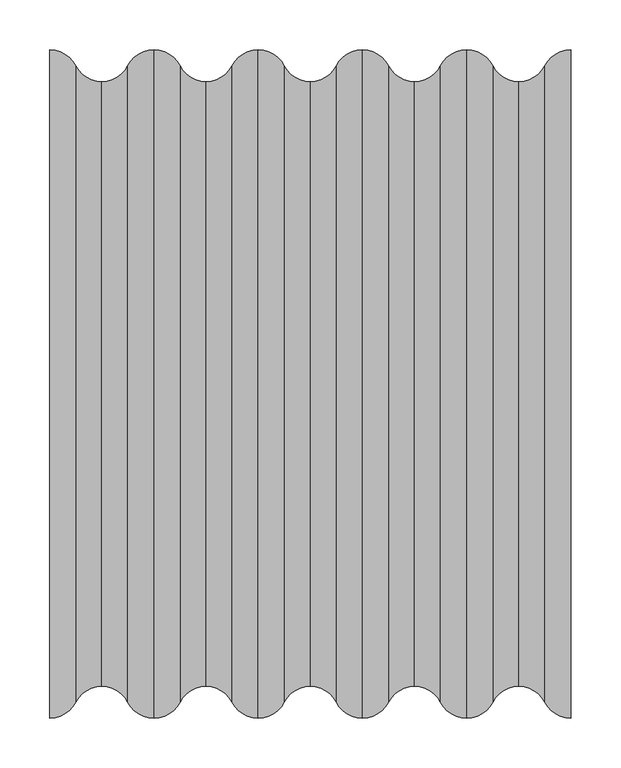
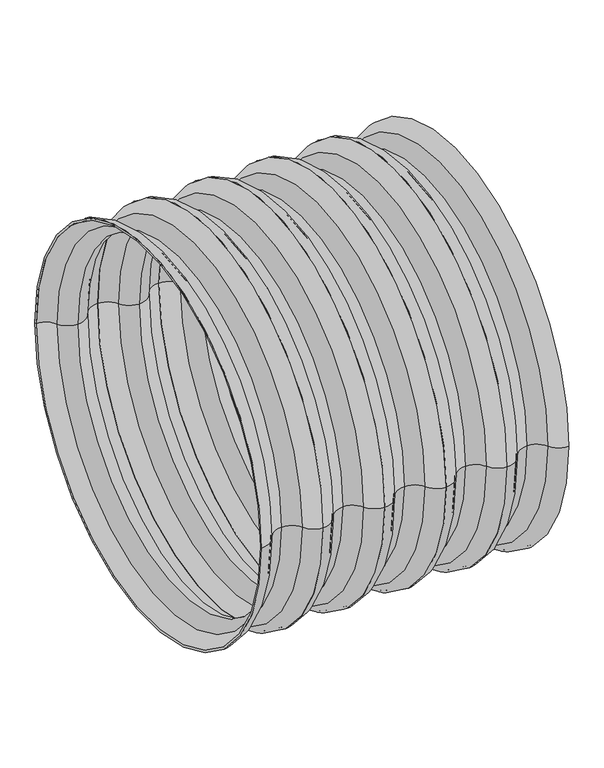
"""IFC4 building model written with IfcOpenShell, lengths in millimetres: pipe fitting geometry, Z_PIF_UN_Q-Bic_Plus_Shaft_Pipe_Wavin_(nested) : PP, RAL8012, ø600mm."""

from ifc_helpers import new_model, si_unit, point, frame, origin, place, context, project, spatial, circle_curve, ellipse_curve, trimmed, source, transform, mapped, element, save
from ifc_brep_helpers import plane_surface, revolved_surface, advanced_brep


def pipe_fitting_80fb7be2(model_context):
    return source(origin(), model_context, "Body", "AdvancedBrep", [
        advanced_brep(
        [(945.0, -336.4, 0.0), (945.0, 336.4, 0.0), (971.25, 320.3, 0.0), (971.25, -320.3, 0.0), (945.0, -332.7, 0.0), (945.0, 332.7, 0.0), (971.25, -316.6, 0.0), (971.25, 316.6, 0.0), (997.5, -300.5, 0.0), (997.5, 300.5, 0.0), (1023.75, -316.6, 0.0), (1023.75, 316.6, 0.0), (1050.0, -332.7, 0.0), (1050.0, 332.7, 0.0), (1050.0, -336.4, 0.0), (1050.0, 336.4, 0.0), (1023.75, -320.3, 0.0), (1023.75, 320.3, 0.0), (997.5, -304.2, 0.0), (997.5, 304.2, 0.0)],
        [
            (0, 1, circle_curve(frame((945.0, 0.0, 0.0), z_axis=(1.0, 0.0, 0.0), x_axis=(0.0, 1.0, 0.0)), 336.4)),
            (1, 2, circle_curve(frame((945.0, 306.9505435, 0.0), z_axis=(0.0, 0.0, -1.0), x_axis=(1.0, 0.0, 0.0)), 29.4494565)),
            (2, 3, circle_curve(frame((971.25, 0.0, 0.0), z_axis=(-1.0, 0.0, 0.0), x_axis=(0.0, 1.0, 0.0)), 320.3)),
            (3, 0, circle_curve(frame((945.0, -306.9505435, 0.0), z_axis=(0.0, 0.0, -1.0), x_axis=(1.0, 0.0, 0.0)), 29.4494565)),
            (1, 0, circle_curve(frame((945.0, 0.0, 0.0), z_axis=(1.0, 0.0, 0.0), x_axis=(0.0, 1.0, 0.0)), 336.4)),
            (3, 2, circle_curve(frame((971.25, 0.0, 0.0), z_axis=(-1.0, 0.0, 0.0), x_axis=(0.0, 1.0, 0.0)), 320.3)),
            (4, 5, circle_curve(frame((945.0, 0.0, 0.0), z_axis=(1.0, 0.0, 0.0), x_axis=(0.0, 1.0, 0.0)), 332.7)),
            (5, 1),
            (0, 4),
            (5, 4, circle_curve(frame((945.0, 0.0, 0.0), z_axis=(1.0, 0.0, 0.0), x_axis=(0.0, 1.0, 0.0)), 332.7)),
            (6, 7, circle_curve(frame((971.25, 0.0, 0.0), z_axis=(1.0, 0.0, 0.0), x_axis=(0.0, 1.0, 0.0)), 316.6)),
            (7, 5, circle_curve(frame((945.0, 303.2505435, 0.0), z_axis=(0.0, 0.0, 1.0), x_axis=(1.0, 0.0, 0.0)), 29.4494565)),
            (4, 6, circle_curve(frame((945.0, -303.2505435, 0.0), z_axis=(0.0, 0.0, 1.0), x_axis=(1.0, 0.0, 0.0)), 29.4494565)),
            (7, 6, circle_curve(frame((971.25, 0.0, 0.0), z_axis=(1.0, 0.0, 0.0), x_axis=(0.0, 1.0, 0.0)), 316.6)),
            (8, 9, circle_curve(frame((997.5, 0.0, 0.0), z_axis=(1.0, 0.0, 0.0), x_axis=(0.0, 1.0, 0.0)), 300.5)),
            (9, 7, circle_curve(frame((997.5, 329.9494565, 0.0), z_axis=(0.0, 0.0, -1.0), x_axis=(1.0, 0.0, 0.0)), 29.4494565)),
            (6, 8, circle_curve(frame((997.5, -329.9494565, 0.0), z_axis=(0.0, 0.0, -1.0), x_axis=(1.0, 0.0, 0.0)), 29.4494565)),
            (9, 8, circle_curve(frame((997.5, 0.0, 0.0), z_axis=(1.0, 0.0, 0.0), x_axis=(0.0, 1.0, 0.0)), 300.5)),
            (10, 11, circle_curve(frame((1023.75, 0.0, 0.0), z_axis=(1.0, 0.0, 0.0), x_axis=(0.0, 1.0, 0.0)), 316.6)),
            (11, 9, circle_curve(frame((997.5, 329.9494565, 0.0), z_axis=(0.0, 0.0, -1.0), x_axis=(1.0, 0.0, 0.0)), 29.4494565)),
            (8, 10, circle_curve(frame((997.5, -329.9494565, 0.0), z_axis=(0.0, 0.0, -1.0), x_axis=(1.0, 0.0, 0.0)), 29.4494565)),
            (11, 10, circle_curve(frame((1023.75, 0.0, 0.0), z_axis=(1.0, 0.0, 0.0), x_axis=(0.0, 1.0, 0.0)), 316.6)),
            (12, 13, circle_curve(frame((1050.0, 0.0, 0.0), z_axis=(1.0, 0.0, 0.0), x_axis=(0.0, 1.0, 0.0)), 332.7)),
            (13, 11, circle_curve(frame((1050.0, 303.2505435, 0.0), z_axis=(0.0, 0.0, 1.0), x_axis=(1.0, 0.0, 0.0)), 29.4494565)),
            (10, 12, circle_curve(frame((1050.0, -303.2505435, 0.0), z_axis=(0.0, 0.0, 1.0), x_axis=(1.0, 0.0, 0.0)), 29.4494565)),
            (13, 12, circle_curve(frame((1050.0, 0.0, 0.0), z_axis=(1.0, 0.0, 0.0), x_axis=(0.0, 1.0, 0.0)), 332.7)),
            (14, 15, circle_curve(frame((1050.0, 0.0, 0.0), z_axis=(1.0, 0.0, 0.0), x_axis=(0.0, 1.0, 0.0)), 336.4)),
            (15, 13),
            (12, 14),
            (15, 14, circle_curve(frame((1050.0, 0.0, 0.0), z_axis=(1.0, 0.0, 0.0), x_axis=(0.0, 1.0, 0.0)), 336.4)),
            (16, 17, circle_curve(frame((1023.75, 0.0, 0.0), z_axis=(1.0, 0.0, 0.0), x_axis=(0.0, 1.0, 0.0)), 320.3)),
            (17, 15, circle_curve(frame((1050.0, 306.9505435, 0.0), z_axis=(0.0, 0.0, -1.0), x_axis=(1.0, 0.0, 0.0)), 29.4494565)),
            (14, 16, circle_curve(frame((1050.0, -306.9505435, 0.0), z_axis=(0.0, 0.0, -1.0), x_axis=(1.0, 0.0, 0.0)), 29.4494565)),
            (17, 16, circle_curve(frame((1023.75, 0.0, 0.0), z_axis=(1.0, 0.0, 0.0), x_axis=(0.0, 1.0, 0.0)), 320.3)),
            (18, 19, circle_curve(frame((997.5, 0.0, 0.0), z_axis=(1.0, 0.0, 0.0), x_axis=(0.0, 1.0, 0.0)), 304.2)),
            (19, 17, circle_curve(frame((997.5, 333.6494565, 0.0), z_axis=(0.0, 0.0, 1.0), x_axis=(1.0, 0.0, 0.0)), 29.4494565)),
            (16, 18, circle_curve(frame((997.5, -333.6494565, 0.0), z_axis=(0.0, 0.0, 1.0), x_axis=(1.0, 0.0, 0.0)), 29.4494565)),
            (19, 18, circle_curve(frame((997.5, 0.0, 0.0), z_axis=(1.0, 0.0, 0.0), x_axis=(0.0, 1.0, 0.0)), 304.2)),
            (2, 19, circle_curve(frame((997.5, 333.6494565, 0.0), z_axis=(0.0, 0.0, 1.0), x_axis=(1.0, 0.0, 0.0)), 29.4494565)),
            (18, 3, circle_curve(frame((997.5, -333.6494565, 0.0), z_axis=(0.0, 0.0, 1.0), x_axis=(1.0, 0.0, 0.0)), 29.4494565)),
        ],
        [
            revolved_surface(trimmed(ellipse_curve(frame((945.0, 306.9505435, 0.0), z_axis=(0.0, 0.0, 1.0), x_axis=(1.0, 0.0, 0.0)), 29.4494565, 29.4494565), [point((971.25, 320.3, 0.0))], [point((945.0, 336.4, 0.0))], True, "CARTESIAN"), (895.0, 0.0, 0.0), (-1.0, 0.0, 0.0)),
            plane_surface(frame((945.0, 0.0, 0.0), z_axis=(-1.0, 0.0, 0.0), x_axis=(0.0, 1.0, 0.0))),
            revolved_surface(trimmed(ellipse_curve(frame((945.0, 303.2505435, 0.0), z_axis=(0.0, 0.0, -1.0), x_axis=(1.0, 0.0, 0.0)), 29.4494565, 29.4494565), [point((945.0, 332.7, 0.0))], [point((971.25, 316.6, 0.0))], True, "CARTESIAN"), (895.0, 0.0, 0.0), (-1.0, 0.0, 0.0)),
            revolved_surface(trimmed(ellipse_curve(frame((997.5, 329.9494565, 0.0), z_axis=(0.0, 0.0, 1.0), x_axis=(1.0, 0.0, 0.0)), 29.4494565, 29.4494565), [point((971.25, 316.6, 0.0))], [point((997.5, 300.5, 0.0))], True, "CARTESIAN"), (895.0, 0.0, 0.0), (-1.0, 0.0, 0.0)),
            revolved_surface(trimmed(ellipse_curve(frame((997.5, 329.9494565, 0.0), z_axis=(0.0, 0.0, 1.0), x_axis=(1.0, 0.0, 0.0)), 29.4494565, 29.4494565), [point((997.5, 300.5, 0.0))], [point((1023.75, 316.6, 0.0))], True, "CARTESIAN"), (895.0, 0.0, 0.0), (-1.0, 0.0, 0.0)),
            revolved_surface(trimmed(ellipse_curve(frame((1050.0, 303.2505435, 0.0), z_axis=(0.0, 0.0, -1.0), x_axis=(1.0, 0.0, 0.0)), 29.4494565, 29.4494565), [point((1023.75, 316.6, 0.0))], [point((1050.0, 332.7, 0.0))], True, "CARTESIAN"), (895.0, 0.0, 0.0), (-1.0, 0.0, 0.0)),
            plane_surface(frame((1050.0, 0.0, 0.0), z_axis=(1.0, 0.0, 0.0), x_axis=(0.0, 1.0, 0.0))),
            revolved_surface(trimmed(ellipse_curve(frame((1050.0, 306.9505435, 0.0), z_axis=(0.0, 0.0, 1.0), x_axis=(1.0, 0.0, 0.0)), 29.4494565, 29.4494565), [point((1050.0, 336.4, 0.0))], [point((1023.75, 320.3, 0.0))], True, "CARTESIAN"), (895.0, 0.0, 0.0), (-1.0, 0.0, 0.0)),
            revolved_surface(trimmed(ellipse_curve(frame((997.5, 333.6494565, 0.0), z_axis=(0.0, 0.0, -1.0), x_axis=(1.0, 0.0, 0.0)), 29.4494565, 29.4494565), [point((1023.75, 320.3, 0.0))], [point((997.5, 304.2, 0.0))], True, "CARTESIAN"), (895.0, 0.0, 0.0), (-1.0, 0.0, 0.0)),
            revolved_surface(trimmed(ellipse_curve(frame((997.5, 333.6494565, 0.0), z_axis=(0.0, 0.0, -1.0), x_axis=(1.0, 0.0, 0.0)), 29.4494565, 29.4494565), [point((997.5, 304.2, 0.0))], [point((971.25, 320.3, 0.0))], True, "CARTESIAN"), (895.0, 0.0, 0.0), (-1.0, 0.0, 0.0)),
        ],
        [
            (0, [[1, 2, 3, 4]]),
            (0, [[5, -4, 6, -2]]),
            (1, [[7, 8, -1, 9]]),
            (1, [[10, -9, -5, -8]]),
            (2, [[11, 12, -7, 13]]),
            (2, [[14, -13, -10, -12]]),
            (3, [[15, 16, -11, 17]]),
            (3, [[18, -17, -14, -16]]),
            (4, [[19, 20, -15, 21]]),
            (4, [[22, -21, -18, -20]]),
            (5, [[23, 24, -19, 25]]),
            (5, [[26, -25, -22, -24]]),
            (6, [[27, 28, -23, 29]]),
            (6, [[30, -29, -26, -28]]),
            (7, [[31, 32, -27, 33]]),
            (7, [[34, -33, -30, -32]]),
            (8, [[35, 36, -31, 37]]),
            (8, [[38, -37, -34, -36]]),
            (9, [[-3, 39, -35, 40]]),
            (9, [[-6, -40, -38, -39]]),
        ],
    ),
        advanced_brep(
        [(840.0, -336.4, 0.0), (840.0, 336.4, 0.0), (866.25, 320.3, 0.0), (866.25, -320.3, 0.0), (840.0, -332.7, 0.0), (840.0, 332.7, 0.0), (866.25, -316.6, 0.0), (866.25, 316.6, 0.0), (892.5, -300.5, 0.0), (892.5, 300.5, 0.0), (918.75, -316.6, 0.0), (918.75, 316.6, 0.0), (945.0, -332.7, 0.0), (945.0, 332.7, 0.0), (945.0, -336.4, 0.0), (945.0, 336.4, 0.0), (918.75, -320.3, 0.0), (918.75, 320.3, 0.0), (892.5, -304.2, 0.0), (892.5, 304.2, 0.0)],
        [
            (0, 1, circle_curve(frame((840.0, 0.0, 0.0), z_axis=(1.0, 0.0, 0.0), x_axis=(0.0, 1.0, 0.0)), 336.4)),
            (1, 2, circle_curve(frame((840.0, 306.9505435, 0.0), z_axis=(0.0, 0.0, -1.0), x_axis=(1.0, 0.0, 0.0)), 29.4494565)),
            (2, 3, circle_curve(frame((866.25, 0.0, 0.0), z_axis=(-1.0, 0.0, 0.0), x_axis=(0.0, 1.0, 0.0)), 320.3)),
            (3, 0, circle_curve(frame((840.0, -306.9505435, 0.0), z_axis=(0.0, 0.0, -1.0), x_axis=(1.0, 0.0, 0.0)), 29.4494565)),
            (1, 0, circle_curve(frame((840.0, 0.0, 0.0), z_axis=(1.0, 0.0, 0.0), x_axis=(0.0, 1.0, 0.0)), 336.4)),
            (3, 2, circle_curve(frame((866.25, 0.0, 0.0), z_axis=(-1.0, 0.0, 0.0), x_axis=(0.0, 1.0, 0.0)), 320.3)),
            (4, 5, circle_curve(frame((840.0, 0.0, 0.0), z_axis=(1.0, 0.0, 0.0), x_axis=(0.0, 1.0, 0.0)), 332.7)),
            (5, 1),
            (0, 4),
            (5, 4, circle_curve(frame((840.0, 0.0, 0.0), z_axis=(1.0, 0.0, 0.0), x_axis=(0.0, 1.0, 0.0)), 332.7)),
            (6, 7, circle_curve(frame((866.25, 0.0, 0.0), z_axis=(1.0, 0.0, 0.0), x_axis=(0.0, 1.0, 0.0)), 316.6)),
            (7, 5, circle_curve(frame((840.0, 303.2505435, 0.0), z_axis=(0.0, 0.0, 1.0), x_axis=(1.0, 0.0, 0.0)), 29.4494565)),
            (4, 6, circle_curve(frame((840.0, -303.2505435, 0.0), z_axis=(0.0, 0.0, 1.0), x_axis=(1.0, 0.0, 0.0)), 29.4494565)),
            (7, 6, circle_curve(frame((866.25, 0.0, 0.0), z_axis=(1.0, 0.0, 0.0), x_axis=(0.0, 1.0, 0.0)), 316.6)),
            (8, 9, circle_curve(frame((892.5, 0.0, 0.0), z_axis=(1.0, 0.0, 0.0), x_axis=(0.0, 1.0, 0.0)), 300.5)),
            (9, 7, circle_curve(frame((892.5, 329.9494565, 0.0), z_axis=(0.0, 0.0, -1.0), x_axis=(1.0, 0.0, 0.0)), 29.4494565)),
            (6, 8, circle_curve(frame((892.5, -329.9494565, 0.0), z_axis=(0.0, 0.0, -1.0), x_axis=(1.0, 0.0, 0.0)), 29.4494565)),
            (9, 8, circle_curve(frame((892.5, 0.0, 0.0), z_axis=(1.0, 0.0, 0.0), x_axis=(0.0, 1.0, 0.0)), 300.5)),
            (10, 11, circle_curve(frame((918.75, 0.0, 0.0), z_axis=(1.0, 0.0, 0.0), x_axis=(0.0, 1.0, 0.0)), 316.6)),
            (11, 9, circle_curve(frame((892.5, 329.9494565, 0.0), z_axis=(0.0, 0.0, -1.0), x_axis=(1.0, 0.0, 0.0)), 29.4494565)),
            (8, 10, circle_curve(frame((892.5, -329.9494565, 0.0), z_axis=(0.0, 0.0, -1.0), x_axis=(1.0, 0.0, 0.0)), 29.4494565)),
            (11, 10, circle_curve(frame((918.75, 0.0, 0.0), z_axis=(1.0, 0.0, 0.0), x_axis=(0.0, 1.0, 0.0)), 316.6)),
            (12, 13, circle_curve(frame((945.0, 0.0, 0.0), z_axis=(1.0, 0.0, 0.0), x_axis=(0.0, 1.0, 0.0)), 332.7)),
            (13, 11, circle_curve(frame((945.0, 303.2505435, 0.0), z_axis=(0.0, 0.0, 1.0), x_axis=(1.0, 0.0, 0.0)), 29.4494565)),
            (10, 12, circle_curve(frame((945.0, -303.2505435, 0.0), z_axis=(0.0, 0.0, 1.0), x_axis=(1.0, 0.0, 0.0)), 29.4494565)),
            (13, 12, circle_curve(frame((945.0, 0.0, 0.0), z_axis=(1.0, 0.0, 0.0), x_axis=(0.0, 1.0, 0.0)), 332.7)),
            (14, 15, circle_curve(frame((945.0, 0.0, 0.0), z_axis=(1.0, 0.0, 0.0), x_axis=(0.0, 1.0, 0.0)), 336.4)),
            (15, 13),
            (12, 14),
            (15, 14, circle_curve(frame((945.0, 0.0, 0.0), z_axis=(1.0, 0.0, 0.0), x_axis=(0.0, 1.0, 0.0)), 336.4)),
            (16, 17, circle_curve(frame((918.75, 0.0, 0.0), z_axis=(1.0, 0.0, 0.0), x_axis=(0.0, 1.0, 0.0)), 320.3)),
            (17, 15, circle_curve(frame((945.0, 306.9505435, 0.0), z_axis=(0.0, 0.0, -1.0), x_axis=(1.0, 0.0, 0.0)), 29.4494565)),
            (14, 16, circle_curve(frame((945.0, -306.9505435, 0.0), z_axis=(0.0, 0.0, -1.0), x_axis=(1.0, 0.0, 0.0)), 29.4494565)),
            (17, 16, circle_curve(frame((918.75, 0.0, 0.0), z_axis=(1.0, 0.0, 0.0), x_axis=(0.0, 1.0, 0.0)), 320.3)),
            (18, 19, circle_curve(frame((892.5, 0.0, 0.0), z_axis=(1.0, 0.0, 0.0), x_axis=(0.0, 1.0, 0.0)), 304.2)),
            (19, 17, circle_curve(frame((892.5, 333.6494565, 0.0), z_axis=(0.0, 0.0, 1.0), x_axis=(1.0, 0.0, 0.0)), 29.4494565)),
            (16, 18, circle_curve(frame((892.5, -333.6494565, 0.0), z_axis=(0.0, 0.0, 1.0), x_axis=(1.0, 0.0, 0.0)), 29.4494565)),
            (19, 18, circle_curve(frame((892.5, 0.0, 0.0), z_axis=(1.0, 0.0, 0.0), x_axis=(0.0, 1.0, 0.0)), 304.2)),
            (2, 19, circle_curve(frame((892.5, 333.6494565, 0.0), z_axis=(0.0, 0.0, 1.0), x_axis=(1.0, 0.0, 0.0)), 29.4494565)),
            (18, 3, circle_curve(frame((892.5, -333.6494565, 0.0), z_axis=(0.0, 0.0, 1.0), x_axis=(1.0, 0.0, 0.0)), 29.4494565)),
        ],
        [
            revolved_surface(trimmed(ellipse_curve(frame((840.0, 306.9505435, 0.0), z_axis=(0.0, 0.0, 1.0), x_axis=(1.0, 0.0, 0.0)), 29.4494565, 29.4494565), [point((866.25, 320.3, 0.0))], [point((840.0, 336.4, 0.0))], True, "CARTESIAN"), (790.0, 0.0, 0.0), (-1.0, 0.0, 0.0)),
            plane_surface(frame((840.0, 0.0, 0.0), z_axis=(-1.0, 0.0, 0.0), x_axis=(0.0, 1.0, 0.0))),
            revolved_surface(trimmed(ellipse_curve(frame((840.0, 303.2505435, 0.0), z_axis=(0.0, 0.0, -1.0), x_axis=(1.0, 0.0, 0.0)), 29.4494565, 29.4494565), [point((840.0, 332.7, 0.0))], [point((866.25, 316.6, 0.0))], True, "CARTESIAN"), (790.0, 0.0, 0.0), (-1.0, 0.0, 0.0)),
            revolved_surface(trimmed(ellipse_curve(frame((892.5, 329.9494565, 0.0), z_axis=(0.0, 0.0, 1.0), x_axis=(1.0, 0.0, 0.0)), 29.4494565, 29.4494565), [point((866.25, 316.6, 0.0))], [point((892.5, 300.5, 0.0))], True, "CARTESIAN"), (790.0, 0.0, 0.0), (-1.0, 0.0, 0.0)),
            revolved_surface(trimmed(ellipse_curve(frame((892.5, 329.9494565, 0.0), z_axis=(0.0, 0.0, 1.0), x_axis=(1.0, 0.0, 0.0)), 29.4494565, 29.4494565), [point((892.5, 300.5, 0.0))], [point((918.75, 316.6, 0.0))], True, "CARTESIAN"), (790.0, 0.0, 0.0), (-1.0, 0.0, 0.0)),
            revolved_surface(trimmed(ellipse_curve(frame((945.0, 303.2505435, 0.0), z_axis=(0.0, 0.0, -1.0), x_axis=(1.0, 0.0, 0.0)), 29.4494565, 29.4494565), [point((918.75, 316.6, 0.0))], [point((945.0, 332.7, 0.0))], True, "CARTESIAN"), (790.0, 0.0, 0.0), (-1.0, 0.0, 0.0)),
            plane_surface(frame((945.0, 0.0, 0.0), z_axis=(1.0, 0.0, 0.0), x_axis=(0.0, 1.0, 0.0))),
            revolved_surface(trimmed(ellipse_curve(frame((945.0, 306.9505435, 0.0), z_axis=(0.0, 0.0, 1.0), x_axis=(1.0, 0.0, 0.0)), 29.4494565, 29.4494565), [point((945.0, 336.4, 0.0))], [point((918.75, 320.3, 0.0))], True, "CARTESIAN"), (790.0, 0.0, 0.0), (-1.0, 0.0, 0.0)),
            revolved_surface(trimmed(ellipse_curve(frame((892.5, 333.6494565, 0.0), z_axis=(0.0, 0.0, -1.0), x_axis=(1.0, 0.0, 0.0)), 29.4494565, 29.4494565), [point((918.75, 320.3, 0.0))], [point((892.5, 304.2, 0.0))], True, "CARTESIAN"), (790.0, 0.0, 0.0), (-1.0, 0.0, 0.0)),
            revolved_surface(trimmed(ellipse_curve(frame((892.5, 333.6494565, 0.0), z_axis=(0.0, 0.0, -1.0), x_axis=(1.0, 0.0, 0.0)), 29.4494565, 29.4494565), [point((892.5, 304.2, 0.0))], [point((866.25, 320.3, 0.0))], True, "CARTESIAN"), (790.0, 0.0, 0.0), (-1.0, 0.0, 0.0)),
        ],
        [
            (0, [[1, 2, 3, 4]]),
            (0, [[5, -4, 6, -2]]),
            (1, [[7, 8, -1, 9]]),
            (1, [[10, -9, -5, -8]]),
            (2, [[11, 12, -7, 13]]),
            (2, [[14, -13, -10, -12]]),
            (3, [[15, 16, -11, 17]]),
            (3, [[18, -17, -14, -16]]),
            (4, [[19, 20, -15, 21]]),
            (4, [[22, -21, -18, -20]]),
            (5, [[23, 24, -19, 25]]),
            (5, [[26, -25, -22, -24]]),
            (6, [[27, 28, -23, 29]]),
            (6, [[30, -29, -26, -28]]),
            (7, [[31, 32, -27, 33]]),
            (7, [[34, -33, -30, -32]]),
            (8, [[35, 36, -31, 37]]),
            (8, [[38, -37, -34, -36]]),
            (9, [[-3, 39, -35, 40]]),
            (9, [[-6, -40, -38, -39]]),
        ],
    ),
        advanced_brep(
        [(735.0, -336.4, 0.0), (735.0, 336.4, 0.0), (761.25, 320.3, 0.0), (761.25, -320.3, 0.0), (735.0, -332.7, 0.0), (735.0, 332.7, 0.0), (761.25, -316.6, 0.0), (761.25, 316.6, 0.0), (787.5, -300.5, 0.0), (787.5, 300.5, 0.0), (813.75, -316.6, 0.0), (813.75, 316.6, 0.0), (840.0, -332.7, 0.0), (840.0, 332.7, 0.0), (840.0, -336.4, 0.0), (840.0, 336.4, 0.0), (813.75, -320.3, 0.0), (813.75, 320.3, 0.0), (787.5, -304.2, 0.0), (787.5, 304.2, 0.0)],
        [
            (0, 1, circle_curve(frame((735.0, 0.0, 0.0), z_axis=(1.0, 0.0, 0.0), x_axis=(0.0, 1.0, 0.0)), 336.4)),
            (1, 2, circle_curve(frame((735.0, 306.9505435, 0.0), z_axis=(0.0, 0.0, -1.0), x_axis=(1.0, 0.0, 0.0)), 29.4494565)),
            (2, 3, circle_curve(frame((761.25, 0.0, 0.0), z_axis=(-1.0, 0.0, 0.0), x_axis=(0.0, 1.0, 0.0)), 320.3)),
            (3, 0, circle_curve(frame((735.0, -306.9505435, 0.0), z_axis=(0.0, 0.0, -1.0), x_axis=(1.0, 0.0, 0.0)), 29.4494565)),
            (1, 0, circle_curve(frame((735.0, 0.0, 0.0), z_axis=(1.0, 0.0, 0.0), x_axis=(0.0, 1.0, 0.0)), 336.4)),
            (3, 2, circle_curve(frame((761.25, 0.0, 0.0), z_axis=(-1.0, 0.0, 0.0), x_axis=(0.0, 1.0, 0.0)), 320.3)),
            (4, 5, circle_curve(frame((735.0, 0.0, 0.0), z_axis=(1.0, 0.0, 0.0), x_axis=(0.0, 1.0, 0.0)), 332.7)),
            (5, 1),
            (0, 4),
            (5, 4, circle_curve(frame((735.0, 0.0, 0.0), z_axis=(1.0, 0.0, 0.0), x_axis=(0.0, 1.0, 0.0)), 332.7)),
            (6, 7, circle_curve(frame((761.25, 0.0, 0.0), z_axis=(1.0, 0.0, 0.0), x_axis=(0.0, 1.0, 0.0)), 316.6)),
            (7, 5, circle_curve(frame((735.0, 303.2505435, 0.0), z_axis=(0.0, 0.0, 1.0), x_axis=(1.0, 0.0, 0.0)), 29.4494565)),
            (4, 6, circle_curve(frame((735.0, -303.2505435, 0.0), z_axis=(0.0, 0.0, 1.0), x_axis=(1.0, 0.0, 0.0)), 29.4494565)),
            (7, 6, circle_curve(frame((761.25, 0.0, 0.0), z_axis=(1.0, 0.0, 0.0), x_axis=(0.0, 1.0, 0.0)), 316.6)),
            (8, 9, circle_curve(frame((787.5, 0.0, 0.0), z_axis=(1.0, 0.0, 0.0), x_axis=(0.0, 1.0, 0.0)), 300.5)),
            (9, 7, circle_curve(frame((787.5, 329.9494565, 0.0), z_axis=(0.0, 0.0, -1.0), x_axis=(1.0, 0.0, 0.0)), 29.4494565)),
            (6, 8, circle_curve(frame((787.5, -329.9494565, 0.0), z_axis=(0.0, 0.0, -1.0), x_axis=(1.0, 0.0, 0.0)), 29.4494565)),
            (9, 8, circle_curve(frame((787.5, 0.0, 0.0), z_axis=(1.0, 0.0, 0.0), x_axis=(0.0, 1.0, 0.0)), 300.5)),
            (10, 11, circle_curve(frame((813.75, 0.0, 0.0), z_axis=(1.0, 0.0, 0.0), x_axis=(0.0, 1.0, 0.0)), 316.6)),
            (11, 9, circle_curve(frame((787.5, 329.9494565, 0.0), z_axis=(0.0, 0.0, -1.0), x_axis=(1.0, 0.0, 0.0)), 29.4494565)),
            (8, 10, circle_curve(frame((787.5, -329.9494565, 0.0), z_axis=(0.0, 0.0, -1.0), x_axis=(1.0, 0.0, 0.0)), 29.4494565)),
            (11, 10, circle_curve(frame((813.75, 0.0, 0.0), z_axis=(1.0, 0.0, 0.0), x_axis=(0.0, 1.0, 0.0)), 316.6)),
            (12, 13, circle_curve(frame((840.0, 0.0, 0.0), z_axis=(1.0, 0.0, 0.0), x_axis=(0.0, 1.0, 0.0)), 332.7)),
            (13, 11, circle_curve(frame((840.0, 303.2505435, 0.0), z_axis=(0.0, 0.0, 1.0), x_axis=(1.0, 0.0, 0.0)), 29.4494565)),
            (10, 12, circle_curve(frame((840.0, -303.2505435, 0.0), z_axis=(0.0, 0.0, 1.0), x_axis=(1.0, 0.0, 0.0)), 29.4494565)),
            (13, 12, circle_curve(frame((840.0, 0.0, 0.0), z_axis=(1.0, 0.0, 0.0), x_axis=(0.0, 1.0, 0.0)), 332.7)),
            (14, 15, circle_curve(frame((840.0, 0.0, 0.0), z_axis=(1.0, 0.0, 0.0), x_axis=(0.0, 1.0, 0.0)), 336.4)),
            (15, 13),
            (12, 14),
            (15, 14, circle_curve(frame((840.0, 0.0, 0.0), z_axis=(1.0, 0.0, 0.0), x_axis=(0.0, 1.0, 0.0)), 336.4)),
            (16, 17, circle_curve(frame((813.75, 0.0, 0.0), z_axis=(1.0, 0.0, 0.0), x_axis=(0.0, 1.0, 0.0)), 320.3)),
            (17, 15, circle_curve(frame((840.0, 306.9505435, 0.0), z_axis=(0.0, 0.0, -1.0), x_axis=(1.0, 0.0, 0.0)), 29.4494565)),
            (14, 16, circle_curve(frame((840.0, -306.9505435, 0.0), z_axis=(0.0, 0.0, -1.0), x_axis=(1.0, 0.0, 0.0)), 29.4494565)),
            (17, 16, circle_curve(frame((813.75, 0.0, 0.0), z_axis=(1.0, 0.0, 0.0), x_axis=(0.0, 1.0, 0.0)), 320.3)),
            (18, 19, circle_curve(frame((787.5, 0.0, 0.0), z_axis=(1.0, 0.0, 0.0), x_axis=(0.0, 1.0, 0.0)), 304.2)),
            (19, 17, circle_curve(frame((787.5, 333.6494565, 0.0), z_axis=(0.0, 0.0, 1.0), x_axis=(1.0, 0.0, 0.0)), 29.4494565)),
            (16, 18, circle_curve(frame((787.5, -333.6494565, 0.0), z_axis=(0.0, 0.0, 1.0), x_axis=(1.0, 0.0, 0.0)), 29.4494565)),
            (19, 18, circle_curve(frame((787.5, 0.0, 0.0), z_axis=(1.0, 0.0, 0.0), x_axis=(0.0, 1.0, 0.0)), 304.2)),
            (2, 19, circle_curve(frame((787.5, 333.6494565, 0.0), z_axis=(0.0, 0.0, 1.0), x_axis=(1.0, 0.0, 0.0)), 29.4494565)),
            (18, 3, circle_curve(frame((787.5, -333.6494565, 0.0), z_axis=(0.0, 0.0, 1.0), x_axis=(1.0, 0.0, 0.0)), 29.4494565)),
        ],
        [
            revolved_surface(trimmed(ellipse_curve(frame((735.0, 306.9505435, 0.0), z_axis=(0.0, 0.0, 1.0), x_axis=(1.0, 0.0, 0.0)), 29.4494565, 29.4494565), [point((761.25, 320.3, 0.0))], [point((735.0, 336.4, 0.0))], True, "CARTESIAN"), (685.0, 0.0, 0.0), (-1.0, 0.0, 0.0)),
            plane_surface(frame((735.0, 0.0, 0.0), z_axis=(-1.0, 0.0, 0.0), x_axis=(0.0, 1.0, 0.0))),
            revolved_surface(trimmed(ellipse_curve(frame((735.0, 303.2505435, 0.0), z_axis=(0.0, 0.0, -1.0), x_axis=(1.0, 0.0, 0.0)), 29.4494565, 29.4494565), [point((735.0, 332.7, 0.0))], [point((761.25, 316.6, 0.0))], True, "CARTESIAN"), (685.0, 0.0, 0.0), (-1.0, 0.0, 0.0)),
            revolved_surface(trimmed(ellipse_curve(frame((787.5, 329.9494565, 0.0), z_axis=(0.0, 0.0, 1.0), x_axis=(1.0, 0.0, 0.0)), 29.4494565, 29.4494565), [point((761.25, 316.6, 0.0))], [point((787.5, 300.5, 0.0))], True, "CARTESIAN"), (685.0, 0.0, 0.0), (-1.0, 0.0, 0.0)),
            revolved_surface(trimmed(ellipse_curve(frame((787.5, 329.9494565, 0.0), z_axis=(0.0, 0.0, 1.0), x_axis=(1.0, 0.0, 0.0)), 29.4494565, 29.4494565), [point((787.5, 300.5, 0.0))], [point((813.75, 316.6, 0.0))], True, "CARTESIAN"), (685.0, 0.0, 0.0), (-1.0, 0.0, 0.0)),
            revolved_surface(trimmed(ellipse_curve(frame((840.0, 303.2505435, 0.0), z_axis=(0.0, 0.0, -1.0), x_axis=(1.0, 0.0, 0.0)), 29.4494565, 29.4494565), [point((813.75, 316.6, 0.0))], [point((840.0, 332.7, 0.0))], True, "CARTESIAN"), (685.0, 0.0, 0.0), (-1.0, 0.0, 0.0)),
            plane_surface(frame((840.0, 0.0, 0.0), z_axis=(1.0, 0.0, 0.0), x_axis=(0.0, 1.0, 0.0))),
            revolved_surface(trimmed(ellipse_curve(frame((840.0, 306.9505435, 0.0), z_axis=(0.0, 0.0, 1.0), x_axis=(1.0, 0.0, 0.0)), 29.4494565, 29.4494565), [point((840.0, 336.4, 0.0))], [point((813.75, 320.3, 0.0))], True, "CARTESIAN"), (685.0, 0.0, 0.0), (-1.0, 0.0, 0.0)),
            revolved_surface(trimmed(ellipse_curve(frame((787.5, 333.6494565, 0.0), z_axis=(0.0, 0.0, -1.0), x_axis=(1.0, 0.0, 0.0)), 29.4494565, 29.4494565), [point((813.75, 320.3, 0.0))], [point((787.5, 304.2, 0.0))], True, "CARTESIAN"), (685.0, 0.0, 0.0), (-1.0, 0.0, 0.0)),
            revolved_surface(trimmed(ellipse_curve(frame((787.5, 333.6494565, 0.0), z_axis=(0.0, 0.0, -1.0), x_axis=(1.0, 0.0, 0.0)), 29.4494565, 29.4494565), [point((787.5, 304.2, 0.0))], [point((761.25, 320.3, 0.0))], True, "CARTESIAN"), (685.0, 0.0, 0.0), (-1.0, 0.0, 0.0)),
        ],
        [
            (0, [[1, 2, 3, 4]]),
            (0, [[5, -4, 6, -2]]),
            (1, [[7, 8, -1, 9]]),
            (1, [[10, -9, -5, -8]]),
            (2, [[11, 12, -7, 13]]),
            (2, [[14, -13, -10, -12]]),
            (3, [[15, 16, -11, 17]]),
            (3, [[18, -17, -14, -16]]),
            (4, [[19, 20, -15, 21]]),
            (4, [[22, -21, -18, -20]]),
            (5, [[23, 24, -19, 25]]),
            (5, [[26, -25, -22, -24]]),
            (6, [[27, 28, -23, 29]]),
            (6, [[30, -29, -26, -28]]),
            (7, [[31, 32, -27, 33]]),
            (7, [[34, -33, -30, -32]]),
            (8, [[35, 36, -31, 37]]),
            (8, [[38, -37, -34, -36]]),
            (9, [[-3, 39, -35, 40]]),
            (9, [[-6, -40, -38, -39]]),
        ],
    ),
        advanced_brep(
        [(630.0, -336.4, 0.0), (630.0, 336.4, 0.0), (656.25, 320.3, 0.0), (656.25, -320.3, 0.0), (630.0, -332.7, 0.0), (630.0, 332.7, 0.0), (656.25, -316.6, 0.0), (656.25, 316.6, 0.0), (682.5, -300.5, 0.0), (682.5, 300.5, 0.0), (708.75, -316.6, 0.0), (708.75, 316.6, 0.0), (735.0, -332.7, 0.0), (735.0, 332.7, 0.0), (735.0, -336.4, 0.0), (735.0, 336.4, 0.0), (708.75, -320.3, 0.0), (708.75, 320.3, 0.0), (682.5, -304.2, 0.0), (682.5, 304.2, 0.0)],
        [
            (0, 1, circle_curve(frame((630.0, 0.0, 0.0), z_axis=(1.0, 0.0, 0.0), x_axis=(0.0, 1.0, 0.0)), 336.4)),
            (1, 2, circle_curve(frame((630.0, 306.9505435, 0.0), z_axis=(0.0, 0.0, -1.0), x_axis=(1.0, 0.0, 0.0)), 29.4494565)),
            (2, 3, circle_curve(frame((656.25, 0.0, 0.0), z_axis=(-1.0, 0.0, 0.0), x_axis=(0.0, 1.0, 0.0)), 320.3)),
            (3, 0, circle_curve(frame((630.0, -306.9505435, 0.0), z_axis=(0.0, 0.0, -1.0), x_axis=(1.0, 0.0, 0.0)), 29.4494565)),
            (1, 0, circle_curve(frame((630.0, 0.0, 0.0), z_axis=(1.0, 0.0, 0.0), x_axis=(0.0, 1.0, 0.0)), 336.4)),
            (3, 2, circle_curve(frame((656.25, 0.0, 0.0), z_axis=(-1.0, 0.0, 0.0), x_axis=(0.0, 1.0, 0.0)), 320.3)),
            (4, 5, circle_curve(frame((630.0, 0.0, 0.0), z_axis=(1.0, 0.0, 0.0), x_axis=(0.0, 1.0, 0.0)), 332.7)),
            (5, 1),
            (0, 4),
            (5, 4, circle_curve(frame((630.0, 0.0, 0.0), z_axis=(1.0, 0.0, 0.0), x_axis=(0.0, 1.0, 0.0)), 332.7)),
            (6, 7, circle_curve(frame((656.25, 0.0, 0.0), z_axis=(1.0, 0.0, 0.0), x_axis=(0.0, 1.0, 0.0)), 316.6)),
            (7, 5, circle_curve(frame((630.0, 303.2505435, 0.0), z_axis=(0.0, 0.0, 1.0), x_axis=(1.0, 0.0, 0.0)), 29.4494565)),
            (4, 6, circle_curve(frame((630.0, -303.2505435, 0.0), z_axis=(0.0, 0.0, 1.0), x_axis=(1.0, 0.0, 0.0)), 29.4494565)),
            (7, 6, circle_curve(frame((656.25, 0.0, 0.0), z_axis=(1.0, 0.0, 0.0), x_axis=(0.0, 1.0, 0.0)), 316.6)),
            (8, 9, circle_curve(frame((682.5, 0.0, 0.0), z_axis=(1.0, 0.0, 0.0), x_axis=(0.0, 1.0, 0.0)), 300.5)),
            (9, 7, circle_curve(frame((682.5, 329.9494565, 0.0), z_axis=(0.0, 0.0, -1.0), x_axis=(1.0, 0.0, 0.0)), 29.4494565)),
            (6, 8, circle_curve(frame((682.5, -329.9494565, 0.0), z_axis=(0.0, 0.0, -1.0), x_axis=(1.0, 0.0, 0.0)), 29.4494565)),
            (9, 8, circle_curve(frame((682.5, 0.0, 0.0), z_axis=(1.0, 0.0, 0.0), x_axis=(0.0, 1.0, 0.0)), 300.5)),
            (10, 11, circle_curve(frame((708.75, 0.0, 0.0), z_axis=(1.0, 0.0, 0.0), x_axis=(0.0, 1.0, 0.0)), 316.6)),
            (11, 9, circle_curve(frame((682.5, 329.9494565, 0.0), z_axis=(0.0, 0.0, -1.0), x_axis=(1.0, 0.0, 0.0)), 29.4494565)),
            (8, 10, circle_curve(frame((682.5, -329.9494565, 0.0), z_axis=(0.0, 0.0, -1.0), x_axis=(1.0, 0.0, 0.0)), 29.4494565)),
            (11, 10, circle_curve(frame((708.75, 0.0, 0.0), z_axis=(1.0, 0.0, 0.0), x_axis=(0.0, 1.0, 0.0)), 316.6)),
            (12, 13, circle_curve(frame((735.0, 0.0, 0.0), z_axis=(1.0, 0.0, 0.0), x_axis=(0.0, 1.0, 0.0)), 332.7)),
            (13, 11, circle_curve(frame((735.0, 303.2505435, 0.0), z_axis=(0.0, 0.0, 1.0), x_axis=(1.0, 0.0, 0.0)), 29.4494565)),
            (10, 12, circle_curve(frame((735.0, -303.2505435, 0.0), z_axis=(0.0, 0.0, 1.0), x_axis=(1.0, 0.0, 0.0)), 29.4494565)),
            (13, 12, circle_curve(frame((735.0, 0.0, 0.0), z_axis=(1.0, 0.0, 0.0), x_axis=(0.0, 1.0, 0.0)), 332.7)),
            (14, 15, circle_curve(frame((735.0, 0.0, 0.0), z_axis=(1.0, 0.0, 0.0), x_axis=(0.0, 1.0, 0.0)), 336.4)),
            (15, 13),
            (12, 14),
            (15, 14, circle_curve(frame((735.0, 0.0, 0.0), z_axis=(1.0, 0.0, 0.0), x_axis=(0.0, 1.0, 0.0)), 336.4)),
            (16, 17, circle_curve(frame((708.75, 0.0, 0.0), z_axis=(1.0, 0.0, 0.0), x_axis=(0.0, 1.0, 0.0)), 320.3)),
            (17, 15, circle_curve(frame((735.0, 306.9505435, 0.0), z_axis=(0.0, 0.0, -1.0), x_axis=(1.0, 0.0, 0.0)), 29.4494565)),
            (14, 16, circle_curve(frame((735.0, -306.9505435, 0.0), z_axis=(0.0, 0.0, -1.0), x_axis=(1.0, 0.0, 0.0)), 29.4494565)),
            (17, 16, circle_curve(frame((708.75, 0.0, 0.0), z_axis=(1.0, 0.0, 0.0), x_axis=(0.0, 1.0, 0.0)), 320.3)),
            (18, 19, circle_curve(frame((682.5, 0.0, 0.0), z_axis=(1.0, 0.0, 0.0), x_axis=(0.0, 1.0, 0.0)), 304.2)),
            (19, 17, circle_curve(frame((682.5, 333.6494565, 0.0), z_axis=(0.0, 0.0, 1.0), x_axis=(1.0, 0.0, 0.0)), 29.4494565)),
            (16, 18, circle_curve(frame((682.5, -333.6494565, 0.0), z_axis=(0.0, 0.0, 1.0), x_axis=(1.0, 0.0, 0.0)), 29.4494565)),
            (19, 18, circle_curve(frame((682.5, 0.0, 0.0), z_axis=(1.0, 0.0, 0.0), x_axis=(0.0, 1.0, 0.0)), 304.2)),
            (2, 19, circle_curve(frame((682.5, 333.6494565, 0.0), z_axis=(0.0, 0.0, 1.0), x_axis=(1.0, 0.0, 0.0)), 29.4494565)),
            (18, 3, circle_curve(frame((682.5, -333.6494565, 0.0), z_axis=(0.0, 0.0, 1.0), x_axis=(1.0, 0.0, 0.0)), 29.4494565)),
        ],
        [
            revolved_surface(trimmed(ellipse_curve(frame((630.0, 306.9505435, 0.0), z_axis=(0.0, 0.0, 1.0), x_axis=(1.0, 0.0, 0.0)), 29.4494565, 29.4494565), [point((656.25, 320.3, 0.0))], [point((630.0, 336.4, 0.0))], True, "CARTESIAN"), (580.0, 0.0, 0.0), (-1.0, 0.0, 0.0)),
            plane_surface(frame((630.0, 0.0, 0.0), z_axis=(-1.0, 0.0, 0.0), x_axis=(0.0, 1.0, 0.0))),
            revolved_surface(trimmed(ellipse_curve(frame((630.0, 303.2505435, 0.0), z_axis=(0.0, 0.0, -1.0), x_axis=(1.0, 0.0, 0.0)), 29.4494565, 29.4494565), [point((630.0, 332.7, 0.0))], [point((656.25, 316.6, 0.0))], True, "CARTESIAN"), (580.0, 0.0, 0.0), (-1.0, 0.0, 0.0)),
            revolved_surface(trimmed(ellipse_curve(frame((682.5, 329.9494565, 0.0), z_axis=(0.0, 0.0, 1.0), x_axis=(1.0, 0.0, 0.0)), 29.4494565, 29.4494565), [point((656.25, 316.6, 0.0))], [point((682.5, 300.5, 0.0))], True, "CARTESIAN"), (580.0, 0.0, 0.0), (-1.0, 0.0, 0.0)),
            revolved_surface(trimmed(ellipse_curve(frame((682.5, 329.9494565, 0.0), z_axis=(0.0, 0.0, 1.0), x_axis=(1.0, 0.0, 0.0)), 29.4494565, 29.4494565), [point((682.5, 300.5, 0.0))], [point((708.75, 316.6, 0.0))], True, "CARTESIAN"), (580.0, 0.0, 0.0), (-1.0, 0.0, 0.0)),
            revolved_surface(trimmed(ellipse_curve(frame((735.0, 303.2505435, 0.0), z_axis=(0.0, 0.0, -1.0), x_axis=(1.0, 0.0, 0.0)), 29.4494565, 29.4494565), [point((708.75, 316.6, 0.0))], [point((735.0, 332.7, 0.0))], True, "CARTESIAN"), (580.0, 0.0, 0.0), (-1.0, 0.0, 0.0)),
            plane_surface(frame((735.0, 0.0, 0.0), z_axis=(1.0, 0.0, 0.0), x_axis=(0.0, 1.0, 0.0))),
            revolved_surface(trimmed(ellipse_curve(frame((735.0, 306.9505435, 0.0), z_axis=(0.0, 0.0, 1.0), x_axis=(1.0, 0.0, 0.0)), 29.4494565, 29.4494565), [point((735.0, 336.4, 0.0))], [point((708.75, 320.3, 0.0))], True, "CARTESIAN"), (580.0, 0.0, 0.0), (-1.0, 0.0, 0.0)),
            revolved_surface(trimmed(ellipse_curve(frame((682.5, 333.6494565, 0.0), z_axis=(0.0, 0.0, -1.0), x_axis=(1.0, 0.0, 0.0)), 29.4494565, 29.4494565), [point((708.75, 320.3, 0.0))], [point((682.5, 304.2, 0.0))], True, "CARTESIAN"), (580.0, 0.0, 0.0), (-1.0, 0.0, 0.0)),
            revolved_surface(trimmed(ellipse_curve(frame((682.5, 333.6494565, 0.0), z_axis=(0.0, 0.0, -1.0), x_axis=(1.0, 0.0, 0.0)), 29.4494565, 29.4494565), [point((682.5, 304.2, 0.0))], [point((656.25, 320.3, 0.0))], True, "CARTESIAN"), (580.0, 0.0, 0.0), (-1.0, 0.0, 0.0)),
        ],
        [
            (0, [[1, 2, 3, 4]]),
            (0, [[5, -4, 6, -2]]),
            (1, [[7, 8, -1, 9]]),
            (1, [[10, -9, -5, -8]]),
            (2, [[11, 12, -7, 13]]),
            (2, [[14, -13, -10, -12]]),
            (3, [[15, 16, -11, 17]]),
            (3, [[18, -17, -14, -16]]),
            (4, [[19, 20, -15, 21]]),
            (4, [[22, -21, -18, -20]]),
            (5, [[23, 24, -19, 25]]),
            (5, [[26, -25, -22, -24]]),
            (6, [[27, 28, -23, 29]]),
            (6, [[30, -29, -26, -28]]),
            (7, [[31, 32, -27, 33]]),
            (7, [[34, -33, -30, -32]]),
            (8, [[35, 36, -31, 37]]),
            (8, [[38, -37, -34, -36]]),
            (9, [[-3, 39, -35, 40]]),
            (9, [[-6, -40, -38, -39]]),
        ],
    ),
        advanced_brep(
        [(525.0, -336.4, 0.0), (525.0, 336.4, 0.0), (551.25, 320.3, 0.0), (551.25, -320.3, 0.0), (525.0, -332.7, 0.0), (525.0, 332.7, 0.0), (551.25, -316.6, 0.0), (551.25, 316.6, 0.0), (577.5, -300.5, 0.0), (577.5, 300.5, 0.0), (603.75, -316.6, 0.0), (603.75, 316.6, 0.0), (630.0, -332.7, 0.0), (630.0, 332.7, 0.0), (630.0, -336.4, 0.0), (630.0, 336.4, 0.0), (603.75, -320.3, 0.0), (603.75, 320.3, 0.0), (577.5, -304.2, 0.0), (577.5, 304.2, 0.0)],
        [
            (0, 1, circle_curve(frame((525.0, 0.0, 0.0), z_axis=(1.0, 0.0, 0.0), x_axis=(0.0, 1.0, 0.0)), 336.4)),
            (1, 2, circle_curve(frame((525.0, 306.9505435, 0.0), z_axis=(0.0, 0.0, -1.0), x_axis=(1.0, 0.0, 0.0)), 29.4494565)),
            (2, 3, circle_curve(frame((551.25, 0.0, 0.0), z_axis=(-1.0, 0.0, 0.0), x_axis=(0.0, 1.0, 0.0)), 320.3)),
            (3, 0, circle_curve(frame((525.0, -306.9505435, 0.0), z_axis=(0.0, 0.0, -1.0), x_axis=(1.0, 0.0, 0.0)), 29.4494565)),
            (1, 0, circle_curve(frame((525.0, 0.0, 0.0), z_axis=(1.0, 0.0, 0.0), x_axis=(0.0, 1.0, 0.0)), 336.4)),
            (3, 2, circle_curve(frame((551.25, 0.0, 0.0), z_axis=(-1.0, 0.0, 0.0), x_axis=(0.0, 1.0, 0.0)), 320.3)),
            (4, 5, circle_curve(frame((525.0, 0.0, 0.0), z_axis=(1.0, 0.0, 0.0), x_axis=(0.0, 1.0, 0.0)), 332.7)),
            (5, 1),
            (0, 4),
            (5, 4, circle_curve(frame((525.0, 0.0, 0.0), z_axis=(1.0, 0.0, 0.0), x_axis=(0.0, 1.0, 0.0)), 332.7)),
            (6, 7, circle_curve(frame((551.25, 0.0, 0.0), z_axis=(1.0, 0.0, 0.0), x_axis=(0.0, 1.0, 0.0)), 316.6)),
            (7, 5, circle_curve(frame((525.0, 303.2505435, 0.0), z_axis=(0.0, 0.0, 1.0), x_axis=(1.0, 0.0, 0.0)), 29.4494565)),
            (4, 6, circle_curve(frame((525.0, -303.2505435, 0.0), z_axis=(0.0, 0.0, 1.0), x_axis=(1.0, 0.0, 0.0)), 29.4494565)),
            (7, 6, circle_curve(frame((551.25, 0.0, 0.0), z_axis=(1.0, 0.0, 0.0), x_axis=(0.0, 1.0, 0.0)), 316.6)),
            (8, 9, circle_curve(frame((577.5, 0.0, 0.0), z_axis=(1.0, 0.0, 0.0), x_axis=(0.0, 1.0, 0.0)), 300.5)),
            (9, 7, circle_curve(frame((577.5, 329.9494565, 0.0), z_axis=(0.0, 0.0, -1.0), x_axis=(1.0, 0.0, 0.0)), 29.4494565)),
            (6, 8, circle_curve(frame((577.5, -329.9494565, 0.0), z_axis=(0.0, 0.0, -1.0), x_axis=(1.0, 0.0, 0.0)), 29.4494565)),
            (9, 8, circle_curve(frame((577.5, 0.0, 0.0), z_axis=(1.0, 0.0, 0.0), x_axis=(0.0, 1.0, 0.0)), 300.5)),
            (10, 11, circle_curve(frame((603.75, 0.0, 0.0), z_axis=(1.0, 0.0, 0.0), x_axis=(0.0, 1.0, 0.0)), 316.6)),
            (11, 9, circle_curve(frame((577.5, 329.9494565, 0.0), z_axis=(0.0, 0.0, -1.0), x_axis=(1.0, 0.0, 0.0)), 29.4494565)),
            (8, 10, circle_curve(frame((577.5, -329.9494565, 0.0), z_axis=(0.0, 0.0, -1.0), x_axis=(1.0, 0.0, 0.0)), 29.4494565)),
            (11, 10, circle_curve(frame((603.75, 0.0, 0.0), z_axis=(1.0, 0.0, 0.0), x_axis=(0.0, 1.0, 0.0)), 316.6)),
            (12, 13, circle_curve(frame((630.0, 0.0, 0.0), z_axis=(1.0, 0.0, 0.0), x_axis=(0.0, 1.0, 0.0)), 332.7)),
            (13, 11, circle_curve(frame((630.0, 303.2505435, 0.0), z_axis=(0.0, 0.0, 1.0), x_axis=(1.0, 0.0, 0.0)), 29.4494565)),
            (10, 12, circle_curve(frame((630.0, -303.2505435, 0.0), z_axis=(0.0, 0.0, 1.0), x_axis=(1.0, 0.0, 0.0)), 29.4494565)),
            (13, 12, circle_curve(frame((630.0, 0.0, 0.0), z_axis=(1.0, 0.0, 0.0), x_axis=(0.0, 1.0, 0.0)), 332.7)),
            (14, 15, circle_curve(frame((630.0, 0.0, 0.0), z_axis=(1.0, 0.0, 0.0), x_axis=(0.0, 1.0, 0.0)), 336.4)),
            (15, 13),
            (12, 14),
            (15, 14, circle_curve(frame((630.0, 0.0, 0.0), z_axis=(1.0, 0.0, 0.0), x_axis=(0.0, 1.0, 0.0)), 336.4)),
            (16, 17, circle_curve(frame((603.75, 0.0, 0.0), z_axis=(1.0, 0.0, 0.0), x_axis=(0.0, 1.0, 0.0)), 320.3)),
            (17, 15, circle_curve(frame((630.0, 306.9505435, 0.0), z_axis=(0.0, 0.0, -1.0), x_axis=(1.0, 0.0, 0.0)), 29.4494565)),
            (14, 16, circle_curve(frame((630.0, -306.9505435, 0.0), z_axis=(0.0, 0.0, -1.0), x_axis=(1.0, 0.0, 0.0)), 29.4494565)),
            (17, 16, circle_curve(frame((603.75, 0.0, 0.0), z_axis=(1.0, 0.0, 0.0), x_axis=(0.0, 1.0, 0.0)), 320.3)),
            (18, 19, circle_curve(frame((577.5, 0.0, 0.0), z_axis=(1.0, 0.0, 0.0), x_axis=(0.0, 1.0, 0.0)), 304.2)),
            (19, 17, circle_curve(frame((577.5, 333.6494565, 0.0), z_axis=(0.0, 0.0, 1.0), x_axis=(1.0, 0.0, 0.0)), 29.4494565)),
            (16, 18, circle_curve(frame((577.5, -333.6494565, 0.0), z_axis=(0.0, 0.0, 1.0), x_axis=(1.0, 0.0, 0.0)), 29.4494565)),
            (19, 18, circle_curve(frame((577.5, 0.0, 0.0), z_axis=(1.0, 0.0, 0.0), x_axis=(0.0, 1.0, 0.0)), 304.2)),
            (2, 19, circle_curve(frame((577.5, 333.6494565, 0.0), z_axis=(0.0, 0.0, 1.0), x_axis=(1.0, 0.0, 0.0)), 29.4494565)),
            (18, 3, circle_curve(frame((577.5, -333.6494565, 0.0), z_axis=(0.0, 0.0, 1.0), x_axis=(1.0, 0.0, 0.0)), 29.4494565)),
        ],
        [
            revolved_surface(trimmed(ellipse_curve(frame((525.0, 306.9505435, 0.0), z_axis=(0.0, 0.0, 1.0), x_axis=(1.0, 0.0, 0.0)), 29.4494565, 29.4494565), [point((551.25, 320.3, 0.0))], [point((525.0, 336.4, 0.0))], True, "CARTESIAN"), (475.0, 0.0, 0.0), (-1.0, 0.0, 0.0)),
            plane_surface(frame((525.0, 0.0, 0.0), z_axis=(-1.0, 0.0, 0.0), x_axis=(0.0, 1.0, 0.0))),
            revolved_surface(trimmed(ellipse_curve(frame((525.0, 303.2505435, 0.0), z_axis=(0.0, 0.0, -1.0), x_axis=(1.0, 0.0, 0.0)), 29.4494565, 29.4494565), [point((525.0, 332.7, 0.0))], [point((551.25, 316.6, 0.0))], True, "CARTESIAN"), (475.0, 0.0, 0.0), (-1.0, 0.0, 0.0)),
            revolved_surface(trimmed(ellipse_curve(frame((577.5, 329.9494565, 0.0), z_axis=(0.0, 0.0, 1.0), x_axis=(1.0, 0.0, 0.0)), 29.4494565, 29.4494565), [point((551.25, 316.6, 0.0))], [point((577.5, 300.5, 0.0))], True, "CARTESIAN"), (475.0, 0.0, 0.0), (-1.0, 0.0, 0.0)),
            revolved_surface(trimmed(ellipse_curve(frame((577.5, 329.9494565, 0.0), z_axis=(0.0, 0.0, 1.0), x_axis=(1.0, 0.0, 0.0)), 29.4494565, 29.4494565), [point((577.5, 300.5, 0.0))], [point((603.75, 316.6, 0.0))], True, "CARTESIAN"), (475.0, 0.0, 0.0), (-1.0, 0.0, 0.0)),
            revolved_surface(trimmed(ellipse_curve(frame((630.0, 303.2505435, 0.0), z_axis=(0.0, 0.0, -1.0), x_axis=(1.0, 0.0, 0.0)), 29.4494565, 29.4494565), [point((603.75, 316.6, 0.0))], [point((630.0, 332.7, 0.0))], True, "CARTESIAN"), (475.0, 0.0, 0.0), (-1.0, 0.0, 0.0)),
            plane_surface(frame((630.0, 0.0, 0.0), z_axis=(1.0, 0.0, 0.0), x_axis=(0.0, 1.0, 0.0))),
            revolved_surface(trimmed(ellipse_curve(frame((630.0, 306.9505435, 0.0), z_axis=(0.0, 0.0, 1.0), x_axis=(1.0, 0.0, 0.0)), 29.4494565, 29.4494565), [point((630.0, 336.4, 0.0))], [point((603.75, 320.3, 0.0))], True, "CARTESIAN"), (475.0, 0.0, 0.0), (-1.0, 0.0, 0.0)),
            revolved_surface(trimmed(ellipse_curve(frame((577.5, 333.6494565, 0.0), z_axis=(0.0, 0.0, -1.0), x_axis=(1.0, 0.0, 0.0)), 29.4494565, 29.4494565), [point((603.75, 320.3, 0.0))], [point((577.5, 304.2, 0.0))], True, "CARTESIAN"), (475.0, 0.0, 0.0), (-1.0, 0.0, 0.0)),
            revolved_surface(trimmed(ellipse_curve(frame((577.5, 333.6494565, 0.0), z_axis=(0.0, 0.0, -1.0), x_axis=(1.0, 0.0, 0.0)), 29.4494565, 29.4494565), [point((577.5, 304.2, 0.0))], [point((551.25, 320.3, 0.0))], True, "CARTESIAN"), (475.0, 0.0, 0.0), (-1.0, 0.0, 0.0)),
        ],
        [
            (0, [[1, 2, 3, 4]]),
            (0, [[5, -4, 6, -2]]),
            (1, [[7, 8, -1, 9]]),
            (1, [[10, -9, -5, -8]]),
            (2, [[11, 12, -7, 13]]),
            (2, [[14, -13, -10, -12]]),
            (3, [[15, 16, -11, 17]]),
            (3, [[18, -17, -14, -16]]),
            (4, [[19, 20, -15, 21]]),
            (4, [[22, -21, -18, -20]]),
            (5, [[23, 24, -19, 25]]),
            (5, [[26, -25, -22, -24]]),
            (6, [[27, 28, -23, 29]]),
            (6, [[30, -29, -26, -28]]),
            (7, [[31, 32, -27, 33]]),
            (7, [[34, -33, -30, -32]]),
            (8, [[35, 36, -31, 37]]),
            (8, [[38, -37, -34, -36]]),
            (9, [[-3, 39, -35, 40]]),
            (9, [[-6, -40, -38, -39]]),
        ],
    ),
    ])


if __name__ == "__main__":
    model = new_model("IFC4")
    model_context = context("Model", 3, world=origin())
    ifc_project = project(units=[si_unit("LENGTHUNIT", "METRE", prefix="MILLI")], contexts=[model_context])
    site = spatial("IfcSite", under=ifc_project)
    building = spatial("IfcBuilding", under=site)
    placement = place(None, origin())
    pipe_fitting_shape = pipe_fitting_80fb7be2(model_context)
    element("IfcPipeFitting", 1, ObjectType="Z_PIF_UN_Q-Bic_Plus_Shaft_Pipe_Wavin_(nested) : PP, RAL8012, ø600mm", at=placement, inside=building, context=model_context, shape_type="MappedRepresentation", body=[
        mapped(pipe_fitting_shape, transform((0.0, 0.0, 0.0), x_axis=(1.0, 0.0, 0.0), y_axis=(0.0, 1.0, 0.0), z_axis=(0.0, 0.0, 1.0))),
    ])
    save(model, "model.ifc")
